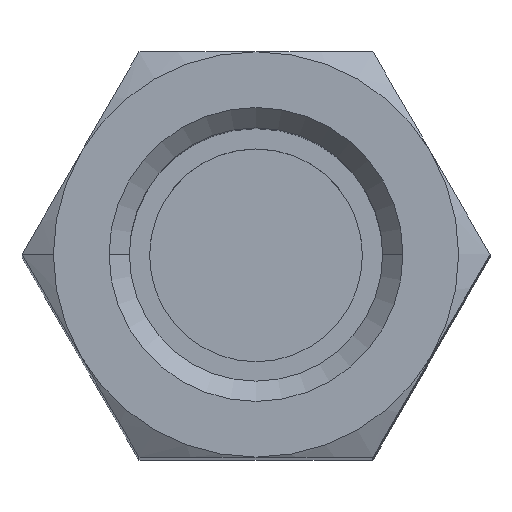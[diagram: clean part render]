
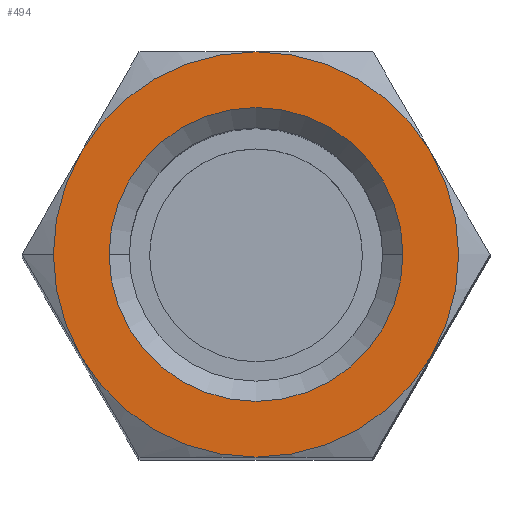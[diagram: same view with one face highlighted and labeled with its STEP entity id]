
A CAD part, top view. The second image highlights one B-rep face of the part: STEP entity #494.
In plain terms, the highlighted planar face has unit normal (0, 0, 1).
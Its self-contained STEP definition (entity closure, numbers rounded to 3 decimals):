
#8 = VERTEX_POINT ( 'NONE', #208 ) ;
#9 = CARTESIAN_POINT ( 'NONE',  ( 2.9, 0., 17.5 ) ) ;
#21 = ORIENTED_EDGE ( 'NONE', *, *, #401, .T. ) ;
#28 = AXIS2_PLACEMENT_3D ( 'NONE', #584, #52, #957 ) ;
#43 = CARTESIAN_POINT ( 'NONE',  ( 0., 0., 17.5 ) ) ;
#47 = AXIS2_PLACEMENT_3D ( 'NONE', #204, #848, #134 ) ;
#52 = DIRECTION ( 'NONE',  ( 0., 0., -1. ) ) ;
#56 = CARTESIAN_POINT ( 'NONE',  ( -3.464, 2., 17.5 ) ) ;
#67 = VERTEX_POINT ( 'NONE', #495 ) ;
#70 = ORIENTED_EDGE ( 'NONE', *, *, #899, .T. ) ;
#77 = DIRECTION ( 'NONE',  ( 0., 0., 1. ) ) ;
#107 = VERTEX_POINT ( 'NONE', #743 ) ;
#126 = VERTEX_POINT ( 'NONE', #737 ) ;
#128 = FACE_BOUND ( 'NONE', #436, .T. ) ;
#130 = EDGE_CURVE ( 'NONE', #962, #618, #140, .T. ) ;
#134 = DIRECTION ( 'NONE',  ( -1., 0., 0. ) ) ;
#140 = CIRCLE ( 'NONE', #47, 4. ) ;
#166 = EDGE_CURVE ( 'NONE', #618, #420, #850, .T. ) ;
#168 = CARTESIAN_POINT ( 'NONE',  ( 0., 0., 17.5 ) ) ;
#194 = CIRCLE ( 'NONE', #433, 4. ) ;
#204 = CARTESIAN_POINT ( 'NONE',  ( 0., 0., 17.5 ) ) ;
#205 = DIRECTION ( 'NONE',  ( -1., 0., 0. ) ) ;
#208 = CARTESIAN_POINT ( 'NONE',  ( 3.464, -2., 17.5 ) ) ;
#226 = CARTESIAN_POINT ( 'NONE',  ( -3.464, -2., 17.5 ) ) ;
#231 = VERTEX_POINT ( 'NONE', #9 ) ;
#242 = ORIENTED_EDGE ( 'NONE', *, *, #130, .T. ) ;
#256 = CARTESIAN_POINT ( 'NONE',  ( 0., -4., 17.5 ) ) ;
#258 = CARTESIAN_POINT ( 'NONE',  ( 0., 0., 17.5 ) ) ;
#272 = EDGE_CURVE ( 'NONE', #231, #126, #923, .T. ) ;
#327 = DIRECTION ( 'NONE',  ( -1., 0., 0. ) ) ;
#357 = CARTESIAN_POINT ( 'NONE',  ( 0., 0., 17.5 ) ) ;
#390 = DIRECTION ( 'NONE',  ( 0., 0., 1. ) ) ;
#401 = EDGE_CURVE ( 'NONE', #8, #67, #669, .T. ) ;
#410 = AXIS2_PLACEMENT_3D ( 'NONE', #1055, #702, #878 ) ;
#420 = VERTEX_POINT ( 'NONE', #226 ) ;
#433 = AXIS2_PLACEMENT_3D ( 'NONE', #357, #713, #205 ) ;
#436 = EDGE_LOOP ( 'NONE', ( #741, #70 ) ) ;
#481 = FACE_OUTER_BOUND ( 'NONE', #596, .T. ) ;
#489 = DIRECTION ( 'NONE',  ( -1., 0., 0. ) ) ;
#494 = ADVANCED_FACE ( 'NONE', ( #128, #481 ), #972, .F. ) ;
#495 = CARTESIAN_POINT ( 'NONE',  ( 3.464, 2., 17.5 ) ) ;
#515 = CARTESIAN_POINT ( 'NONE',  ( 0., 0., 17.5 ) ) ;
#543 = DIRECTION ( 'NONE',  ( 0., 0., -1. ) ) ;
#545 = EDGE_CURVE ( 'NONE', #67, #107, #548, .T. ) ;
#548 = CIRCLE ( 'NONE', #674, 4. ) ;
#554 = CARTESIAN_POINT ( 'NONE',  ( 0., 0., 17.5 ) ) ;
#566 = AXIS2_PLACEMENT_3D ( 'NONE', #258, #961, #327 ) ;
#584 = CARTESIAN_POINT ( 'NONE',  ( 0., 0., 17.5 ) ) ;
#596 = EDGE_LOOP ( 'NONE', ( #242, #1077, #779, #863, #21, #802, #1102 ) ) ;
#613 = DIRECTION ( 'NONE',  ( 1., 0., 0. ) ) ;
#618 = VERTEX_POINT ( 'NONE', #987 ) ;
#653 = CIRCLE ( 'NONE', #28, 2.9 ) ;
#669 = CIRCLE ( 'NONE', #1122, 4. ) ;
#674 = AXIS2_PLACEMENT_3D ( 'NONE', #168, #77, #890 ) ;
#702 = DIRECTION ( 'NONE',  ( 0., 0., -1. ) ) ;
#713 = DIRECTION ( 'NONE',  ( 0., 0., 1. ) ) ;
#715 = DIRECTION ( 'NONE',  ( -1., 0., 0. ) ) ;
#733 = EDGE_CURVE ( 'NONE', #994, #8, #194, .T. ) ;
#737 = CARTESIAN_POINT ( 'NONE',  ( -2.9, 0., 17.5 ) ) ;
#741 = ORIENTED_EDGE ( 'NONE', *, *, #272, .T. ) ;
#743 = CARTESIAN_POINT ( 'NONE',  ( 0., 4., 17.5 ) ) ;
#778 = DIRECTION ( 'NONE',  ( 0., 0., -1. ) ) ;
#779 = ORIENTED_EDGE ( 'NONE', *, *, #1082, .T. ) ;
#794 = AXIS2_PLACEMENT_3D ( 'NONE', #933, #925, #489 ) ;
#802 = ORIENTED_EDGE ( 'NONE', *, *, #545, .T. ) ;
#848 = DIRECTION ( 'NONE',  ( 0., 0., 1. ) ) ;
#850 = CIRCLE ( 'NONE', #794, 4. ) ;
#852 = DIRECTION ( 'NONE',  ( -1., 0., 0. ) ) ;
#863 = ORIENTED_EDGE ( 'NONE', *, *, #733, .T. ) ;
#878 = DIRECTION ( 'NONE',  ( -1., 0., 0. ) ) ;
#890 = DIRECTION ( 'NONE',  ( -1., 0., 0. ) ) ;
#899 = EDGE_CURVE ( 'NONE', #126, #231, #653, .T. ) ;
#920 = CIRCLE ( 'NONE', #410, 4. ) ;
#923 = CIRCLE ( 'NONE', #1073, 2.9 ) ;
#925 = DIRECTION ( 'NONE',  ( 0., 0., 1. ) ) ;
#933 = CARTESIAN_POINT ( 'NONE',  ( 0., 0., 17.5 ) ) ;
#957 = DIRECTION ( 'NONE',  ( -1., 0., 0. ) ) ;
#961 = DIRECTION ( 'NONE',  ( 0., 0., 1. ) ) ;
#962 = VERTEX_POINT ( 'NONE', #56 ) ;
#972 = PLANE ( 'NONE',  #1049 ) ;
#987 = CARTESIAN_POINT ( 'NONE',  ( -4., 0., 17.5 ) ) ;
#994 = VERTEX_POINT ( 'NONE', #256 ) ;
#1049 = AXIS2_PLACEMENT_3D ( 'NONE', #515, #778, #613 ) ;
#1055 = CARTESIAN_POINT ( 'NONE',  ( 0., 0., 17.5 ) ) ;
#1063 = EDGE_CURVE ( 'NONE', #962, #107, #920, .T. ) ;
#1070 = CIRCLE ( 'NONE', #566, 4. ) ;
#1073 = AXIS2_PLACEMENT_3D ( 'NONE', #554, #543, #715 ) ;
#1077 = ORIENTED_EDGE ( 'NONE', *, *, #166, .T. ) ;
#1082 = EDGE_CURVE ( 'NONE', #420, #994, #1070, .T. ) ;
#1102 = ORIENTED_EDGE ( 'NONE', *, *, #1063, .F. ) ;
#1122 = AXIS2_PLACEMENT_3D ( 'NONE', #43, #390, #852 ) ;
